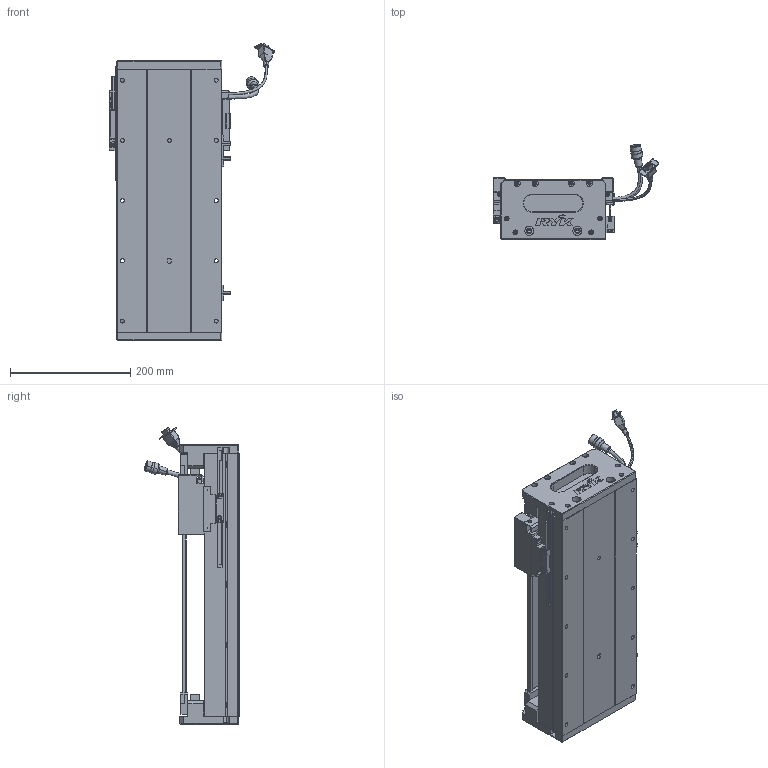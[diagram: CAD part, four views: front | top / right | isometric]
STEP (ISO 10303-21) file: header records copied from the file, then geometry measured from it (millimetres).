
FILE_DESCRIPTION (( 'STEP AP203' ), '1' );
FILE_NAME ('Z1-RY170D-1-L500-B-K.SLDASM_0250.step', '2021-05-17T08:51:17', ( '盈信电脑' ), ( '东莞市道滘镇水果街19号' ), 'SwSTEP 2.0', 'SolidWorks 2016', '' );
FILE_SCHEMA (( 'CONFIG_CONTROL_DESIGN' ));
Length unit declared in the file: millimetre
Products named in the file (36): COVER; 080黍杅芛假蚾釱21遴; COVER-Part-1; SCALE; LABEL; PSLH080_PSLF2; Z-RY170詩湍奻揤裔; RY170直线电机感应器672光电感应片; SCREW-M1.6-3; Z-170詩湍傷裔啣; Z1-RY170-L500耀郪菁釱_0250; PBU_SHEET; 覜茼ん672; SCREW-M1.6-1; Z1-RY170臏賑輸(21遴); SHIELDPLATE; 170-Z-臏賑輸盄裔(21遴); SCALE-Part-2; 140蚥薯蝶輸; 140雄赽晤鎢ん堤盄; HOLDER0; SCREW-M1.6; HARNESS-Part-1; SCREW-M1.7-1; Z1-RY170D-1-L500-B-K.SLDASM_0250; SCREW-M1.7; HARNESS-Part-2; SCALE-Part-1; LABEL-Part-1; Z1-RY170-L500詩湍145mm遵_0250; SEAL; 榋妏寠巭燃_暯_M2_2; Z-RY170詩湍狟揤裔; HARNESS; SEAL-Part-1; SCREW-M1.6-2
Assembly tree (41 placements, depth 4):
  Z1-RY170D-1-L500-B-K.SLDASM_0250
    Z1-RY170-L500耀郪菁釱_0250
    RY170直线电机感应器672光电感应片
    Z1-RY170臏賑輸(21遴)
    覜茼ん672  x3
    PSLH080_PSLF2
      SCALE
        SCALE-Part-1
        SCALE-Part-2
      HARNESS
        HARNESS-Part-1
        HARNESS-Part-2
      LABEL
        LABEL-Part-1
      COVER
        COVER-Part-1
      SEAL
        SEAL-Part-1
      榋妏寠巭燃_暯_M2_2
      SHIELDPLATE
      SCREW-M1.7
      SCREW-M1.7-1
      PBU_SHEET
      SCREW-M1.6
      SCREW-M1.6-1
      SCREW-M1.6-2
      SCREW-M1.6-3
      HOLDER0
    080黍杅芛假蚾釱21遴
    Z1-RY170-L500詩湍145mm遵_0250
    Z-170詩湍傷裔啣  x2
    Z-RY170詩湍奻揤裔  x2
    Z-RY170詩湍狟揤裔  x2
    140蚥薯蝶輸  x2
    170-Z-臏賑輸盄裔(21遴)
    140雄赽晤鎢ん堤盄
Bounding box: 275.34 x 158.11 x 493.73 mm (x, y, z)
Volume: 3221656.7 mm3; surface area: 789738.2 mm2
Topology: 36 solids, 36 shells, 2562 faces, 6717 edges, 4251 vertices
Faces by surface type: plane 1088, cylinder 1080, cone 272, torus 69, bspline 53
Entity records: 71657 total; most frequent: CARTESIAN_POINT 17164, DIRECTION 10623, ORIENTED_EDGE 10462, EDGE_CURVE 5231, AXIS2_PLACEMENT_3D 3844, VERTEX_POINT 3369, LINE 2935, VECTOR 2935
